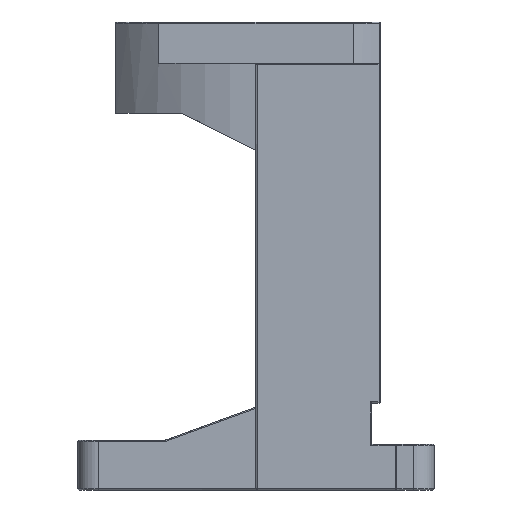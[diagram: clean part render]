
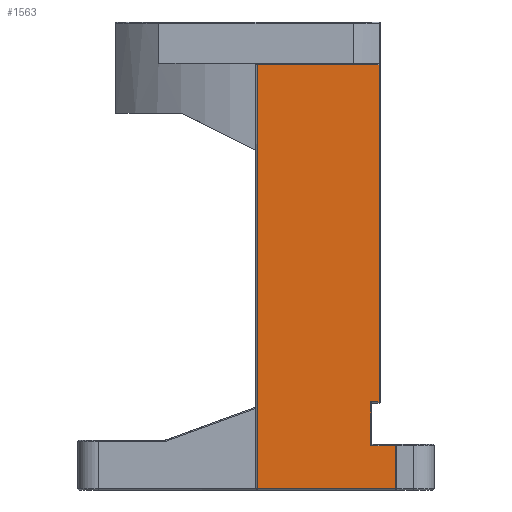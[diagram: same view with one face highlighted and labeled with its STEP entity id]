
A CAD part, left-side view. The second image highlights one B-rep face of the part: STEP entity #1563.
In plain terms, the highlighted planar face has unit normal (-1, 0, 0).
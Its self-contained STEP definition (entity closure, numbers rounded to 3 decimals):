
#14 = VERTEX_POINT ( 'NONE', #6830 ) ;
#95 = LINE ( 'NONE', #5080, #2790 ) ;
#644 = VERTEX_POINT ( 'NONE', #6290 ) ;
#733 = ORIENTED_EDGE ( 'NONE', *, *, #3442, .T. ) ;
#1202 = FACE_OUTER_BOUND ( 'NONE', #2807, .T. ) ;
#1263 = CARTESIAN_POINT ( 'NONE',  ( -44., -0.3, -5.7 ) ) ;
#1309 = ORIENTED_EDGE ( 'NONE', *, *, #5864, .T. ) ;
#1362 = CARTESIAN_POINT ( 'NONE',  ( -44., -34., 15.3 ) ) ;
#1483 = ORIENTED_EDGE ( 'NONE', *, *, #4159, .T. ) ;
#1505 = VECTOR ( 'NONE', #1551, 1000. ) ;
#1551 = DIRECTION ( 'NONE',  ( 0., 0., 1. ) ) ;
#1556 = LINE ( 'NONE', #4504, #2781 ) ;
#1563 = ADVANCED_FACE ( 'NONE', ( #1202 ), #5431, .F. ) ;
#1585 = CARTESIAN_POINT ( 'NONE',  ( -44., -27.7, 97. ) ) ;
#1688 = DIRECTION ( 'NONE',  ( 0., -1., 0. ) ) ;
#1757 = DIRECTION ( 'NONE',  ( 0., 1., 0. ) ) ;
#1964 = CARTESIAN_POINT ( 'NONE',  ( -44., -27.7, 4.7 ) ) ;
#2161 = CARTESIAN_POINT ( 'NONE',  ( -44., -34., 4.7 ) ) ;
#2277 = EDGE_CURVE ( 'NONE', #4730, #14, #5842, .T. ) ;
#2349 = VECTOR ( 'NONE', #5647, 1000. ) ;
#2354 = EDGE_CURVE ( 'NONE', #14, #3405, #4980, .T. ) ;
#2428 = DIRECTION ( 'NONE',  ( 0., 1., 0. ) ) ;
#2566 = CARTESIAN_POINT ( 'NONE',  ( -44., -29.7, 97. ) ) ;
#2781 = VECTOR ( 'NONE', #5224, 1000. ) ;
#2790 = VECTOR ( 'NONE', #5302, 1000. ) ;
#2807 = EDGE_LOOP ( 'NONE', ( #6086, #3894, #1309, #6684, #733, #4566, #1483, #5343 ) ) ;
#2907 = LINE ( 'NONE', #1585, #1505 ) ;
#3145 = VERTEX_POINT ( 'NONE', #1964 ) ;
#3405 = VERTEX_POINT ( 'NONE', #6241 ) ;
#3442 = EDGE_CURVE ( 'NONE', #3936, #6933, #4144, .T. ) ;
#3894 = ORIENTED_EDGE ( 'NONE', *, *, #2354, .T. ) ;
#3936 = VERTEX_POINT ( 'NONE', #4007 ) ;
#4007 = CARTESIAN_POINT ( 'NONE',  ( -44., -33.7, -5.7 ) ) ;
#4108 = EDGE_CURVE ( 'NONE', #6933, #3145, #6242, .T. ) ;
#4144 = LINE ( 'NONE', #5776, #5454 ) ;
#4159 = EDGE_CURVE ( 'NONE', #3145, #644, #2907, .T. ) ;
#4198 = CARTESIAN_POINT ( 'NONE',  ( -44., -29.7, 15.3 ) ) ;
#4476 = EDGE_CURVE ( 'NONE', #644, #4730, #6949, .T. ) ;
#4504 = CARTESIAN_POINT ( 'NONE',  ( -44., -34., -5.7 ) ) ;
#4566 = ORIENTED_EDGE ( 'NONE', *, *, #4108, .T. ) ;
#4666 = AXIS2_PLACEMENT_3D ( 'NONE', #5351, #5313, #5255 ) ;
#4730 = VERTEX_POINT ( 'NONE', #4198 ) ;
#4913 = VERTEX_POINT ( 'NONE', #1263 ) ;
#4954 = CARTESIAN_POINT ( 'NONE',  ( -44., 0., 96.7 ) ) ;
#4980 = LINE ( 'NONE', #4954, #6287 ) ;
#5079 = CARTESIAN_POINT ( 'NONE',  ( -44., -33.7, 4.7 ) ) ;
#5080 = CARTESIAN_POINT ( 'NONE',  ( -44., -0.3, 97. ) ) ;
#5224 = DIRECTION ( 'NONE',  ( 0., -1., 0. ) ) ;
#5255 = DIRECTION ( 'NONE',  ( 0., -1., 0. ) ) ;
#5302 = DIRECTION ( 'NONE',  ( 0., 0., -1. ) ) ;
#5313 = DIRECTION ( 'NONE',  ( 1., 0., 0. ) ) ;
#5343 = ORIENTED_EDGE ( 'NONE', *, *, #4476, .T. ) ;
#5351 = CARTESIAN_POINT ( 'NONE',  ( -44., -34., 97. ) ) ;
#5390 = DIRECTION ( 'NONE',  ( 0., 0., 1. ) ) ;
#5431 = PLANE ( 'NONE',  #4666 ) ;
#5454 = VECTOR ( 'NONE', #5390, 1000. ) ;
#5647 = DIRECTION ( 'NONE',  ( 0., 0., 1. ) ) ;
#5776 = CARTESIAN_POINT ( 'NONE',  ( -44., -33.7, 5. ) ) ;
#5842 = LINE ( 'NONE', #2566, #2349 ) ;
#5864 = EDGE_CURVE ( 'NONE', #3405, #4913, #95, .T. ) ;
#6065 = VECTOR ( 'NONE', #2428, 1000. ) ;
#6086 = ORIENTED_EDGE ( 'NONE', *, *, #2277, .T. ) ;
#6241 = CARTESIAN_POINT ( 'NONE',  ( -44., -0.3, 96.7 ) ) ;
#6242 = LINE ( 'NONE', #2161, #6065 ) ;
#6245 = EDGE_CURVE ( 'NONE', #4913, #3936, #1556, .T. ) ;
#6287 = VECTOR ( 'NONE', #1757, 1000. ) ;
#6290 = CARTESIAN_POINT ( 'NONE',  ( -44., -27.7, 15.3 ) ) ;
#6684 = ORIENTED_EDGE ( 'NONE', *, *, #6245, .T. ) ;
#6776 = VECTOR ( 'NONE', #1688, 1000. ) ;
#6830 = CARTESIAN_POINT ( 'NONE',  ( -44., -29.7, 96.7 ) ) ;
#6933 = VERTEX_POINT ( 'NONE', #5079 ) ;
#6949 = LINE ( 'NONE', #1362, #6776 ) ;
